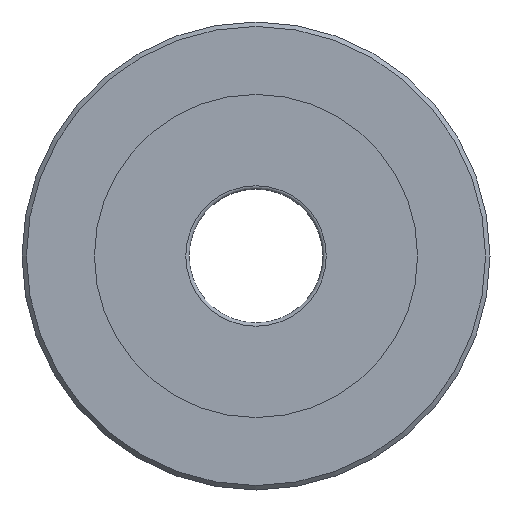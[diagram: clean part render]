
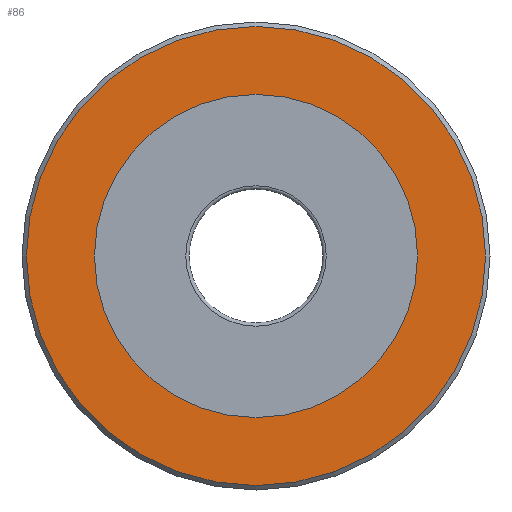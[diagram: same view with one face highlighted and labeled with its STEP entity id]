
A CAD part, left-side view. The second image highlights one B-rep face of the part: STEP entity #86.
In plain terms, the highlighted planar face has unit normal (-1, 0, 0).
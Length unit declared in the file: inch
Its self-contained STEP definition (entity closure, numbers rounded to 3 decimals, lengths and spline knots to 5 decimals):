
#59=CARTESIAN_POINT('',(10.75,34.8,0.));
#60=VERTEX_POINT('',#59);
#61=CARTESIAN_POINT('',(10.75,24.5,0.));
#62=DIRECTION('',(-1.,0.,0.));
#63=DIRECTION('',(0.,1.,0.));
#64=AXIS2_PLACEMENT_3D('',#61,#62,#63);
#65=CIRCLE('',#64,10.3);
#66=EDGE_CURVE('',#60,#60,#65,.T.);
#67=ORIENTED_EDGE('',*,*,#66,.T.);
#68=EDGE_LOOP('',(#67));
#69=FACE_OUTER_BOUND('',#68,.T.);
#70=CARTESIAN_POINT('',(10.75,31.75,0.));
#71=VERTEX_POINT('',#70);
#72=CARTESIAN_POINT('',(10.75,24.5,0.));
#73=DIRECTION('',(-1.,0.,0.));
#74=DIRECTION('',(0.,1.,0.));
#75=AXIS2_PLACEMENT_3D('',#72,#73,#74);
#76=CIRCLE('',#75,7.25);
#77=EDGE_CURVE('',#71,#71,#76,.T.);
#78=ORIENTED_EDGE('',*,*,#77,.F.);
#79=EDGE_LOOP('',(#78));
#80=FACE_BOUND('',#79,.T.);
#81=CARTESIAN_POINT('',(10.75,33.275,0.));
#82=DIRECTION('',(-1.,0.,0.));
#83=DIRECTION('',(0.,1.,0.));
#84=AXIS2_PLACEMENT_3D('',#81,#82,#83);
#85=PLANE('',#84);
#86=ADVANCED_FACE('',(#69,#80),#85,.T.);
